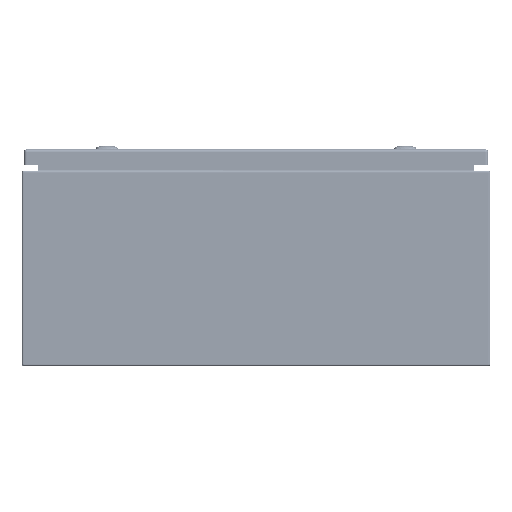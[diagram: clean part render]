
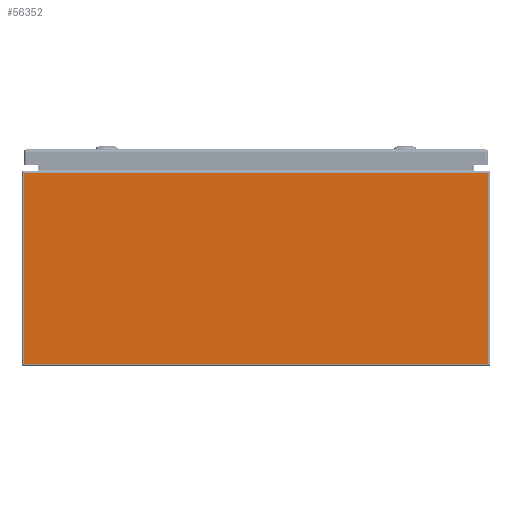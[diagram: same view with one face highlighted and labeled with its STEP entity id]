
A CAD part, left-side view. The second image highlights one B-rep face of the part: STEP entity #56352.
In plain terms, the highlighted planar face has unit normal (-1, 0, 0).
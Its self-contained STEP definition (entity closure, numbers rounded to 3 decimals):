
#5771=LINE('',#77222,#9462);
#5782=LINE('',#77263,#9473);
#5786=LINE('',#77278,#9477);
#5787=LINE('',#77279,#9478);
#9462=VECTOR('',#64929,0.394);
#9473=VECTOR('',#64978,0.394);
#9477=VECTOR('',#64996,0.394);
#9478=VECTOR('',#64997,0.394);
#13980=FACE_OUTER_BOUND('',#17351,.T.);
#17351=EDGE_LOOP('',(#37464,#37465,#37466,#37467));
#22509=VERTEX_POINT('',#77215);
#22510=VERTEX_POINT('',#77220);
#22521=VERTEX_POINT('',#77262);
#22525=VERTEX_POINT('',#77277);
#28336=EDGE_CURVE('',#22510,#22509,#5771,.T.);
#28356=EDGE_CURVE('',#22509,#22521,#5782,.T.);
#28364=EDGE_CURVE('',#22525,#22510,#5786,.T.);
#28365=EDGE_CURVE('',#22525,#22521,#5787,.T.);
#37464=ORIENTED_EDGE('',*,*,#28336,.F.);
#37465=ORIENTED_EDGE('',*,*,#28364,.F.);
#37466=ORIENTED_EDGE('',*,*,#28365,.T.);
#37467=ORIENTED_EDGE('',*,*,#28356,.F.);
#55027=PLANE('',#60555);
#56352=ADVANCED_FACE('',(#13980),#55027,.F.);
#60555=AXIS2_PLACEMENT_3D('',#77276,#64994,#64995);
#64929=DIRECTION('',(0.,-1.,0.));
#64978=DIRECTION('',(0.,0.,-1.));
#64994=DIRECTION('center_axis',(1.,0.,0.));
#64995=DIRECTION('ref_axis',(0.,0.,-1.));
#64996=DIRECTION('',(0.,0.,1.));
#64997=DIRECTION('',(0.,-1.,0.));
#77215=CARTESIAN_POINT('',(-12.,-11.916,9.916));
#77220=CARTESIAN_POINT('',(-12.,11.916,9.916));
#77222=CARTESIAN_POINT('',(-12.,-5.979,9.916));
#77262=CARTESIAN_POINT('',(-12.,-11.916,0.084));
#77263=CARTESIAN_POINT('',(-12.,-11.916,5.));
#77276=CARTESIAN_POINT('Origin',(-12.,0.,5.));
#77277=CARTESIAN_POINT('',(-12.,11.916,0.084));
#77278=CARTESIAN_POINT('',(-12.,11.916,5.));
#77279=CARTESIAN_POINT('',(-12.,6.,0.084));
